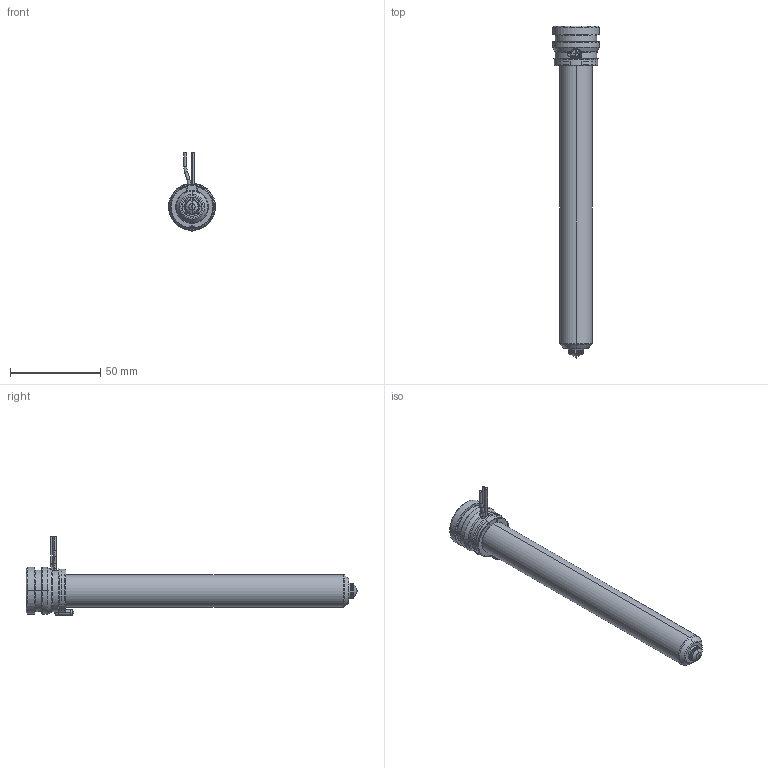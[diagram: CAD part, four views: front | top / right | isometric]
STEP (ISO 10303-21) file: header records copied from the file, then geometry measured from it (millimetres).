
FILE_DESCRIPTION((''),'2;1');
FILE_NAME('MPN-08-24-VSA8-166-A','2026-02-05T12:04:10',('UPTIO'),('Thermoplay S.p.A.'),'CREO PARAMETRIC BY PTC INC, 2023494','CREO PARAMETRIC BY PTC INC, 2023494','');
FILE_SCHEMA(('CONFIG_CONTROL_DESIGN','SHAPE_APPEARANCE_LAYERS_GROUPS'));
Length unit declared in the file: millimetre
Products named in the file (1): MPN-08-24-VSA8-166-A
Bounding box: 26 x 184 x 43.5 mm (x, y, z)
Volume: 34592.7 mm3; surface area: 45204.2 mm2
Topology: 2 solids, 3 shells, 543 faces, 1440 edges, 895 vertices
Faces by surface type: cylinder 182, plane 143, bspline 80, torus 62, cone 60, sphere 10, extrusion 6
Entity records: 29198 total; most frequent: CARTESIAN_POINT 13000, ORIENTED_EDGE 2864, DIRECTION 2580, EDGE_CURVE 1432, AXIS2_PLACEMENT_3D 1007, VERTEX_POINT 895, EDGE_LOOP 571, VECTOR 566
